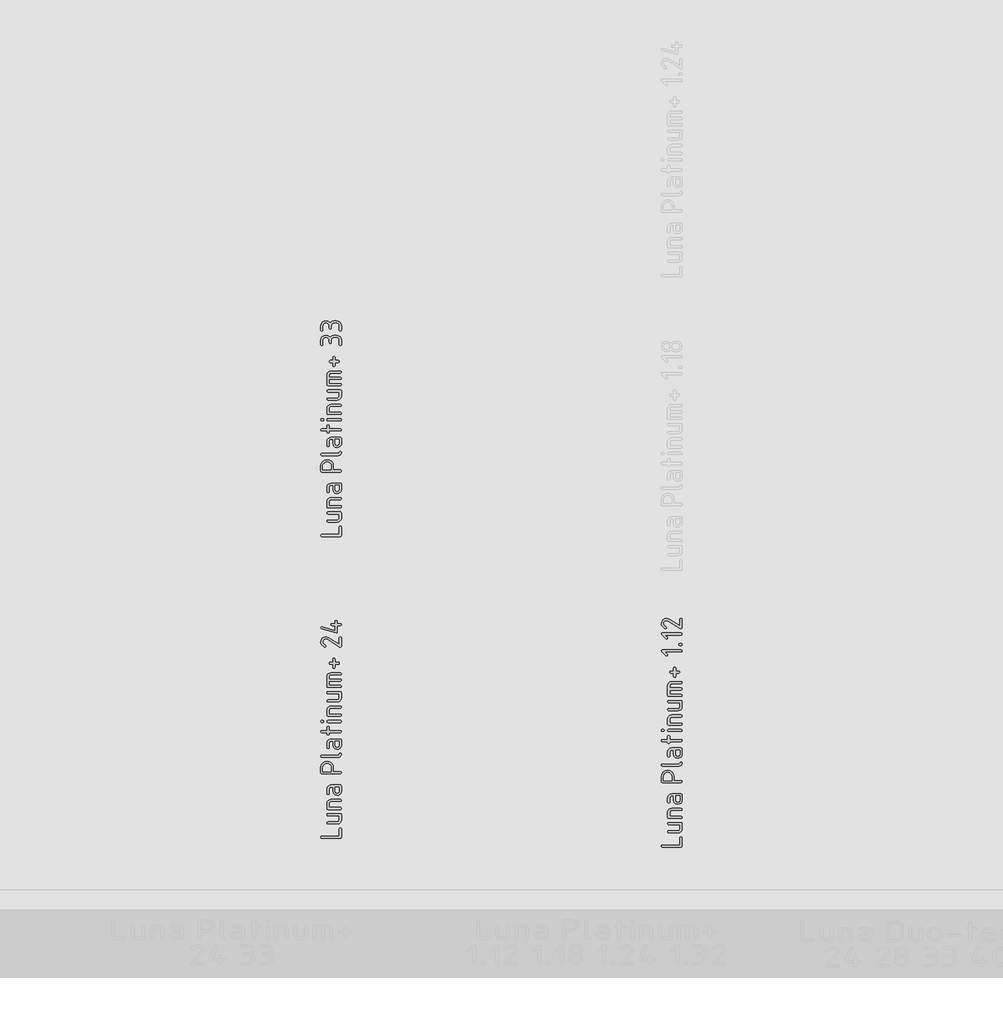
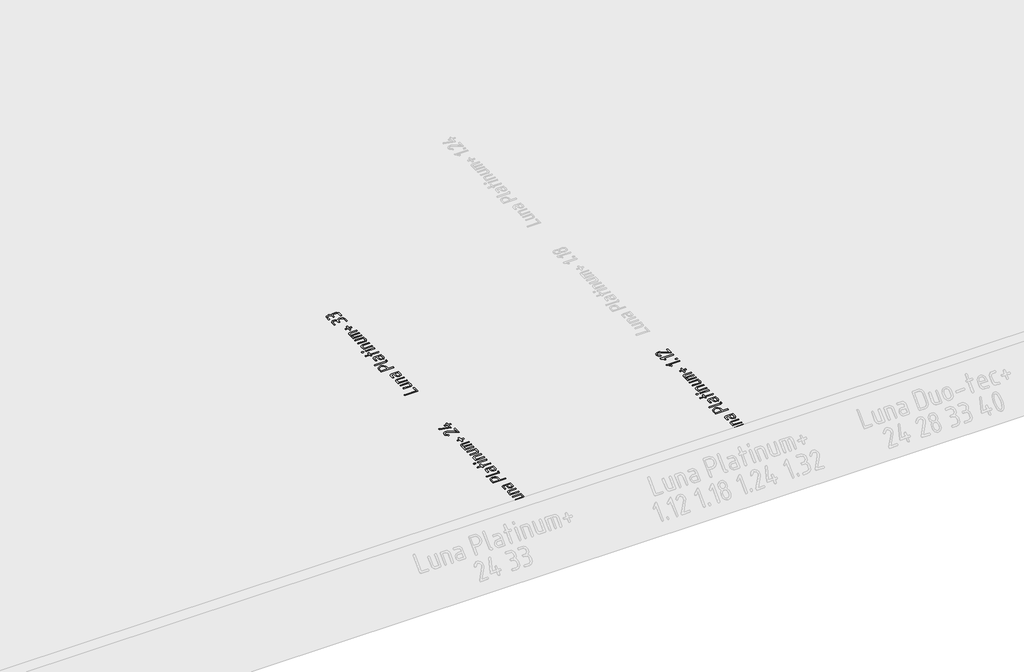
# One storey, part 19 of 37: 3 proxies.
"""IFC4 building model written with IfcOpenShell, lengths in millimetres."""

from ifc_helpers import new_model, si_unit, frame, origin, place, context, project, spatial, polyline, outline, extrude, element, save

model = new_model("IFC4")

# Units and contexts
model_context = context("Model", 3, world=origin())
ifc_project = project(units=[si_unit("LENGTHUNIT", "METRE", prefix="MILLI")], contexts=[model_context])

# Site, building, storey
site = spatial("IfcSite", under=ifc_project)
building = spatial("IfcBuilding", under=site)
storey = spatial("IfcBuildingStorey", under=building, Name="01_Стартовый вид_Площадка", Elevation=0.0)

# Proxies
placement = place(None, origin())
element("IfcBuildingElementProxy", 1, Name="150 мм", ObjectType="150 мм", at=placement, inside=storey, context=model_context, shape_type="SweptSolid", body=[
    extrude(outline(polyline([(15539.4355153, -4331.7183075), (15533.7723757, -4329.8006306), (15531.8846626, -4324.0475999), (15533.7623878, -4318.2945692), (15539.3955637, -4316.3768923), (15667.4004968, -4316.3768923), (15667.4004968, -4263.8804872), (15669.3181737, -4258.2473113), (15675.0712044, -4256.369586), (15680.8242351, -4258.2473113), (15682.741912, -4263.8804872), (15682.741912, -4324.0475999), (15680.8541988, -4329.8006306), (15675.1910592, -4331.7183075), (15539.4355153, -4331.7183075)])), frame((0.0, 0.0, -10.0), z_axis=(0.0, 0.0, 1.0), x_axis=(1.0, 0.0, 0.0)), (0.0, 0.0, 1.0), 10.0),
    extrude(outline(polyline([(15585.3798577, -4152.7351302), (15675.2709624, -4152.7351302), (15680.8741746, -4154.5928797), (15682.741912, -4160.1661282), (15682.741912, -4197.2412149), (15680.5745376, -4208.7372884), (15674.0724143, -4218.2957092), (15664.4141145, -4224.737905), (15652.7782104, -4226.8853037), (15585.3798577, -4226.8853037), (15579.7766455, -4224.9676268), (15577.9089081, -4219.2145961), (15579.7766455, -4213.4615654), (15585.3798577, -4211.5438885), (15652.4985492, -4211.5438885), (15662.9858448, -4207.269067), (15667.4004968, -4197.0414569), (15667.4004968, -4168.0765454), (15585.3798577, -4168.0765454), (15579.7766455, -4166.1588685), (15577.9089081, -4160.4058378), (15579.7766455, -4154.6528071), (15585.3798577, -4152.7351302)])), frame((0.0, 0.0, -10.0), z_axis=(0.0, 0.0, 1.0), x_axis=(1.0, 0.0, 0.0)), (0.0, 0.0, 1.0), 10.0),
    extrude(outline(polyline([(15675.2709624, -4122.0522998), (15585.3798577, -4122.0522998), (15579.7766455, -4120.1945503), (15577.9089081, -4114.6213018), (15577.9089081, -4077.5462151), (15580.0762826, -4066.0501416), (15586.5784058, -4056.4917208), (15596.2367056, -4050.049525), (15607.8726097, -4047.9021263), (15675.2709624, -4047.9021263), (15680.8741746, -4049.8198032), (15682.741912, -4055.5728339), (15680.8741746, -4061.3258646), (15675.2709624, -4063.2435415), (15608.1522709, -4063.2435415), (15597.5451206, -4067.418484), (15593.2503233, -4077.7459731), (15593.2503233, -4106.7108846), (15675.2709624, -4106.7108846), (15680.8741746, -4108.6285615), (15682.741912, -4114.3815922), (15680.8741746, -4120.1346229), (15675.2709624, -4122.0522998)])), frame((0.0, 0.0, -10.0), z_axis=(0.0, 0.0, 1.0), x_axis=(1.0, 0.0, 0.0)), (0.0, 0.0, 1.0), 10.0),
    extrude(outline(polyline([(15682.741912, -3988.4141909), (15680.5196041, -4000.0301192), (15673.8526805, -4009.7083948), (15663.9596651, -4016.2404817), (15652.0590816, -4018.417844), (15636.5978116, -4014.4226838), (15625.1816413, -4003.6657149), (15621.3762512, -3988.4141909), (15621.3762512, -3958.4105377), (15607.3132873, -3958.4105377), (15597.305411, -3962.7253107), (15593.2503233, -3973.3923885), (15593.2503233, -4003.3960416), (15591.3326464, -4009.0292175), (15585.5796157, -4010.9069428), (15579.826585, -4009.0292175), (15577.9089081, -4003.3960416), (15577.9089081, -3973.3923885), (15580.0762826, -3961.7115388), (15586.5784058, -3951.9184024), (15596.2367056, -3945.2814425), (15607.8726097, -3943.0691225), (15675.2709624, -3943.0691225), (15680.8741746, -3944.9867994), (15682.741912, -3950.7398301), (15682.741912, -3988.4141909)]), holes=[polyline([(15636.7176664, -3958.4105377), (15636.7176664, -3988.4141909), (15641.1922458, -3999.0213412), (15652.0590816, -4003.3960416), (15662.86599, -3998.9614138), (15667.4004968, -3988.4141909), (15667.4004968, -3958.4105377), (15636.7176664, -3958.4105377)])]), frame((0.0, 0.0, -10.0), z_axis=(0.0, 0.0, 1.0), x_axis=(1.0, 0.0, 0.0)), (0.0, 0.0, 1.0), 10.0),
    extrude(outline(polyline([(15531.8846626, -3853.7772919), (15531.8846626, -3816.5024471), (15535.2405971, -3799.248349), (15545.3084008, -3784.8008509), (15560.1703968, -3775.0177023), (15577.9089081, -3771.7566528), (15596.4464515, -3774.847908), (15611.1486411, -3784.1216736), (15620.7370256, -3798.33945), (15623.9331537, -3816.2627375), (15623.9331537, -3845.9068262), (15675.3908172, -3845.9068262), (15680.9041383, -3847.8245031), (15682.741912, -3853.5775338), (15680.8541988, -3859.3305645), (15675.1910592, -3861.2482414), (15539.4355153, -3861.2482414), (15533.7723757, -3859.380504), (15531.8846626, -3853.7772919)]), holes=[polyline([(15547.2260777, -3845.9068262), (15608.5917385, -3845.9068262), (15608.5917385, -3816.5024471), (15606.3694307, -3805.1112466), (15599.7025071, -3795.627735), (15589.8094916, -3789.2304848), (15577.9089081, -3787.098068), (15566.0083247, -3789.2304848), (15556.1153092, -3795.627735), (15549.4483856, -3805.1112466), (15547.2260777, -3816.5024471), (15547.2260777, -3845.9068262)])]), frame((0.0, 0.0, -10.0), z_axis=(0.0, 0.0, 1.0), x_axis=(1.0, 0.0, 0.0)), (0.0, 0.0, 1.0), 10.0),
    extrude(outline(polyline([(15539.4355153, -3741.0738224), (15533.7723757, -3739.1561455), (15531.8846626, -3733.4031148), (15533.7723757, -3727.6500841), (15539.4355153, -3725.7324072), (15660.1293052, -3725.7324072), (15664.9035217, -3723.8596759), (15667.6402064, -3718.2414818), (15670.3868791, -3712.6232878), (15675.1910592, -3710.7505564), (15680.8541988, -3712.6182938), (15682.741912, -3718.221506), (15681.2437269, -3727.4453321), (15676.7491717, -3734.7414935), (15669.5978349, -3739.4907402), (15660.1293052, -3741.0738224), (15539.4355153, -3741.0738224)])), frame((0.0, 0.0, -10.0), z_axis=(0.0, 0.0, 1.0), x_axis=(1.0, 0.0, 0.0)), (0.0, 0.0, 1.0), 10.0),
    extrude(outline(polyline([(15682.741912, -3653.459959), (15680.5196041, -3665.0758873), (15673.8526805, -3674.754163), (15663.9596651, -3681.2862499), (15652.0590816, -3683.4636122), (15636.5978116, -3679.468452), (15625.1816413, -3668.7114831), (15621.3762512, -3653.459959), (15621.3762512, -3623.4563059), (15607.3132873, -3623.4563059), (15597.305411, -3627.7710789), (15593.2503233, -3638.4381567), (15593.2503233, -3668.4418098), (15591.3326464, -3674.0749857), (15585.5796157, -3675.952711), (15579.826585, -3674.0749857), (15577.9089081, -3668.4418098), (15577.9089081, -3638.4381567), (15580.0762826, -3626.757307), (15586.5784058, -3616.9641705), (15596.2367056, -3610.3272107), (15607.8726097, -3608.1148907), (15675.2709624, -3608.1148907), (15680.8741746, -3610.0325676), (15682.741912, -3615.7855983), (15682.741912, -3653.459959)]), holes=[polyline([(15636.7176664, -3623.4563059), (15636.7176664, -3653.459959), (15641.1922458, -3664.0671094), (15652.0590816, -3668.4418098), (15662.86599, -3664.007182), (15667.4004968, -3653.459959), (15667.4004968, -3623.4563059), (15636.7176664, -3623.4563059)])]), frame((0.0, 0.0, -10.0), z_axis=(0.0, 0.0, 1.0), x_axis=(1.0, 0.0, 0.0)), (0.0, 0.0, 1.0), 10.0),
    extrude(outline(polyline([(15593.2503233, -3562.0906451), (15593.2503233, -3569.6015463), (15591.3326464, -3575.2347222), (15585.5796157, -3577.1124475), (15579.826585, -3575.2347222), (15577.9089081, -3569.6015463), (15577.9089081, -3562.0906451), (15539.5553702, -3562.0906451), (15533.8023395, -3560.1729682), (15531.8846626, -3554.4199375), (15533.8023395, -3548.6669068), (15539.5553702, -3546.7492299), (15577.9089081, -3546.7492299), (15577.9089081, -3524.2165263), (15579.826585, -3518.6133141), (15585.5796157, -3516.7455767), (15591.3326464, -3518.6133141), (15593.2503233, -3524.2165263), (15593.2503233, -3546.7492299), (15675.2709624, -3546.7492299), (15680.8741746, -3548.6669068), (15682.741912, -3554.4199375), (15680.8741746, -3560.1729682), (15675.2709624, -3562.0906451), (15593.2503233, -3562.0906451)])), frame((0.0, 0.0, -10.0), z_axis=(0.0, 0.0, 1.0), x_axis=(1.0, 0.0, 0.0)), (0.0, 0.0, 1.0), 10.0),
    extrude(outline(polyline([(15585.2200513, -3487.9404716), (15579.6168391, -3486.0227947), (15577.7491017, -3480.269764), (15579.6168391, -3474.5167333), (15585.2200513, -3472.5990564), (15675.2310108, -3472.5990564), (15680.8641867, -3474.5167333), (15682.741912, -3480.269764), (15680.8641867, -3486.0227947), (15675.2310108, -3487.9404716), (15585.2200513, -3487.9404716)])), frame((0.0, 0.0, -10.0), z_axis=(0.0, 0.0, 1.0), x_axis=(1.0, 0.0, 0.0)), (0.0, 0.0, 1.0), 10.0),
    extrude(outline(polyline([(15546.9064649, -3487.9404716), (15539.3955637, -3487.9404716), (15533.7623878, -3486.0227947), (15531.8846626, -3480.269764), (15533.7623878, -3474.5167333), (15539.3955637, -3472.5990564), (15546.9064649, -3472.5990564), (15552.5396408, -3474.5167333), (15554.4173661, -3480.269764), (15552.5396408, -3486.0227947), (15546.9064649, -3487.9404716)])), frame((0.0, 0.0, -10.0), z_axis=(0.0, 0.0, 1.0), x_axis=(1.0, 0.0, 0.0)), (0.0, 0.0, 1.0), 10.0),
    extrude(outline(polyline([(15675.2709624, -3441.916226), (15585.3798577, -3441.916226), (15579.7766455, -3440.0584766), (15577.9089081, -3434.4852281), (15577.9089081, -3397.4101413), (15580.0762826, -3385.9140678), (15586.5784058, -3376.355647), (15596.2367056, -3369.9134512), (15607.8726097, -3367.7660526), (15675.2709624, -3367.7660526), (15680.8741746, -3369.6837295), (15682.741912, -3375.4367602), (15680.8741746, -3381.1897909), (15675.2709624, -3383.1074678), (15608.1522709, -3383.1074678), (15597.5451206, -3387.2824102), (15593.2503233, -3397.6098993), (15593.2503233, -3426.5748108), (15675.2709624, -3426.5748108), (15680.8741746, -3428.4924877), (15682.741912, -3434.2455184), (15680.8741746, -3439.9985491), (15675.2709624, -3441.916226)])), frame((0.0, 0.0, -10.0), z_axis=(0.0, 0.0, 1.0), x_axis=(1.0, 0.0, 0.0)), (0.0, 0.0, 1.0), 10.0),
    extrude(outline(polyline([(15585.3798577, -3262.9330487), (15675.2709624, -3262.9330487), (15680.8741746, -3264.7907982), (15682.741912, -3270.3640467), (15682.741912, -3307.4391335), (15680.5745376, -3318.935207), (15674.0724143, -3328.4936278), (15664.4141145, -3334.9358236), (15652.7782104, -3337.0832222), (15585.3798577, -3337.0832222), (15579.7766455, -3335.1655453), (15577.9089081, -3329.4125146), (15579.7766455, -3323.6594839), (15585.3798577, -3321.741807), (15652.4985492, -3321.741807), (15662.9858448, -3317.4669856), (15667.4004968, -3307.2393754), (15667.4004968, -3278.2744639), (15585.3798577, -3278.2744639), (15579.7766455, -3276.356787), (15577.9089081, -3270.6037563), (15579.7766455, -3264.8507256), (15585.3798577, -3262.9330487)])), frame((0.0, 0.0, -10.0), z_axis=(0.0, 0.0, 1.0), x_axis=(1.0, 0.0, 0.0)), (0.0, 0.0, 1.0), 10.0),
    extrude(outline(polyline([(15577.9089081, -3224.5795107), (15577.9089081, -3155.5431424), (15580.0762826, -3143.6425589), (15586.5784058, -3133.7495434), (15596.2367056, -3127.0826198), (15607.8726097, -3124.860312), (15675.2709624, -3124.860312), (15680.8741746, -3126.7779889), (15682.741912, -3132.5310196), (15680.8741746, -3138.2840503), (15675.2709624, -3140.2017272), (15608.1522709, -3140.2017272), (15597.5451206, -3144.6163792), (15593.2503233, -3155.5431424), (15593.2503233, -3170.8845576), (15675.2709624, -3170.8845576), (15680.8741746, -3172.8022345), (15682.741912, -3178.5552652), (15680.8741746, -3184.3082959), (15675.2709624, -3186.2259728), (15593.2503233, -3186.2259728), (15593.2503233, -3216.9088031), (15675.2709624, -3216.9088031), (15680.8741746, -3218.82648), (15682.741912, -3224.5795107), (15680.8741746, -3230.3325414), (15675.2709624, -3232.2502183), (15585.3798577, -3232.2502183), (15579.7766455, -3230.3325414), (15577.9089081, -3224.5795107)])), frame((0.0, 0.0, -10.0), z_axis=(0.0, 0.0, 1.0), x_axis=(1.0, 0.0, 0.0)), (0.0, 0.0, 1.0), 10.0),
    extrude(outline(polyline([(15636.7176664, -3063.4946512), (15636.7176664, -3085.9874031), (15634.7999895, -3091.620579), (15629.0469588, -3093.4983043), (15623.2939281, -3091.620579), (15621.3762512, -3085.9874031), (15621.3762512, -3063.4946512), (15600.2818053, -3063.4946512), (15595.0081938, -3061.5769743), (15593.2503233, -3055.8239436), (15595.0081938, -3050.0709129), (15600.2818053, -3048.153236), (15621.3762512, -3048.153236), (15621.3762512, -3025.660484), (15623.2939281, -3020.0273081), (15629.0469588, -3018.1495828), (15634.7999895, -3020.0273081), (15636.7176664, -3025.660484), (15636.7176664, -3048.153236), (15659.7297892, -3048.153236), (15665.4828199, -3050.0709129), (15667.4004968, -3055.8239436), (15665.4828199, -3061.5769743), (15659.7297892, -3063.4946512), (15636.7176664, -3063.4946512)])), frame((0.0, 0.0, -10.0), z_axis=(0.0, 0.0, 1.0), x_axis=(1.0, 0.0, 0.0)), (0.0, 0.0, 1.0), 10.0),
    extrude(outline(polyline([(15557.6134943, -2907.5235967), (15574.912538, -2924.7826888), (15577.0699245, -2930.0163486), (15575.1921992, -2935.6495245), (15569.5590233, -2937.5272498), (15564.3253634, -2935.3299117), (15534.8410811, -2906.0054358), (15531.8846626, -2899.8528891), (15533.7723757, -2894.0998584), (15539.4355153, -2892.1821815), (15675.1910592, -2892.1821815), (15680.8541988, -2894.0998584), (15682.741912, -2899.8528891), (15680.8541988, -2905.6059198), (15675.1910592, -2907.5235967), (15557.6134943, -2907.5235967)])), frame((0.0, 0.0, -10.0), z_axis=(0.0, 0.0, 1.0), x_axis=(1.0, 0.0, 0.0)), (0.0, 0.0, 1.0), 10.0),
    extrude(outline(polyline([(15667.4004968, -2861.4993511), (15661.6474661, -2859.5816742), (15659.7297892, -2853.8286435), (15661.6474661, -2848.0756128), (15667.4004968, -2846.1579359), (15675.0712044, -2846.1579359), (15680.8242351, -2848.0756128), (15682.741912, -2853.8286435), (15680.8242351, -2859.5816742), (15675.0712044, -2861.4993511), (15667.4004968, -2861.4993511)])), frame((0.0, 0.0, -10.0), z_axis=(0.0, 0.0, 1.0), x_axis=(1.0, 0.0, 0.0)), (0.0, 0.0, 1.0), 10.0),
    extrude(outline(polyline([(15557.6134943, -2784.7922751), (15574.912538, -2802.0513672), (15577.0699245, -2807.2850271), (15575.1921992, -2812.9182029), (15569.5590233, -2814.7959282), (15564.3253634, -2812.5985901), (15534.8410811, -2783.2741142), (15531.8846626, -2777.1215675), (15533.7723757, -2771.3685368), (15539.4355153, -2769.4508599), (15675.1910592, -2769.4508599), (15680.8541988, -2771.3685368), (15682.741912, -2777.1215675), (15680.8541988, -2782.8745982), (15675.1910592, -2784.7922751), (15557.6134943, -2784.7922751)])), frame((0.0, 0.0, -10.0), z_axis=(0.0, 0.0, 1.0), x_axis=(1.0, 0.0, 0.0)), (0.0, 0.0, 1.0), 10.0),
    extrude(outline(polyline([(15531.8846626, -2701.6130396), (15534.6363291, -2687.1855173), (15542.8913289, -2675.0652), (15555.0515978, -2666.8401639), (15569.5190717, -2664.0984852), (15580.3159922, -2665.8064162), (15591.2127916, -2670.9302092), (15667.4004968, -2718.1929544), (15667.4004968, -2671.6093864), (15669.3181737, -2665.9762105), (15675.0712044, -2664.0984852), (15680.8242351, -2665.9762105), (15682.741912, -2671.6093864), (15682.741912, -2731.6166927), (15680.8641867, -2737.2498686), (15675.2310108, -2739.1275939), (15670.8762862, -2737.8491426), (15582.2636328, -2682.8757382), (15569.7987329, -2679.1202876), (15561.1342292, -2680.7682912), (15553.8380679, -2685.7123019), (15548.8790753, -2692.9834935), (15547.2260777, -2701.6130396), (15551.9403668, -2713.8482177), (15566.0832339, -2725.1445332), (15569.7188297, -2731.6166927), (15567.8411044, -2737.2498686), (15562.2079285, -2739.1275939), (15559.1316552, -2738.4084651), (15538.6964107, -2722.2380541), (15533.5875996, -2712.4823723), (15531.8846626, -2701.6130396)])), frame((0.0, 0.0, -10.0), z_axis=(0.0, 0.0, 1.0), x_axis=(1.0, 0.0, 0.0)), (0.0, 0.0, 1.0), 10.0),
])
element("IfcBuildingElementProxy", 2, Name="150 мм", ObjectType="150 мм", at=placement, inside=storey, context=model_context, shape_type="SweptSolid", body=[
    extrude(outline(polyline([(13054.7547885, -4266.8246711), (13049.0916489, -4264.9069942), (13047.2039357, -4259.1539635), (13049.081661, -4253.4009328), (13054.7148369, -4251.4832559), (13182.7197699, -4251.4832559), (13182.7197699, -4198.9868507), (13184.6374468, -4193.3536749), (13190.3904775, -4191.4759496), (13196.1435082, -4193.3536749), (13198.0611851, -4198.9868507), (13198.0611851, -4259.1539635), (13196.1734719, -4264.9069942), (13190.5103323, -4266.8246711), (13054.7547885, -4266.8246711)])), frame((0.0, 0.0, -10.0), z_axis=(0.0, 0.0, 1.0), x_axis=(1.0, 0.0, 0.0)), (0.0, 0.0, 1.0), 10.0),
    extrude(outline(polyline([(13100.6991309, -4087.8414938), (13190.5902355, -4087.8414938), (13196.1934477, -4089.6992433), (13198.0611851, -4095.2724918), (13198.0611851, -4132.3475785), (13195.8938107, -4143.843652), (13189.3916875, -4153.4020728), (13179.7333877, -4159.8442686), (13168.0974836, -4161.9916672), (13100.6991309, -4161.9916672), (13095.0959187, -4160.0739903), (13093.2281813, -4154.3209596), (13095.0959187, -4148.5679289), (13100.6991309, -4146.650252), (13167.8178224, -4146.650252), (13178.3051179, -4142.3754306), (13182.7197699, -4132.1478205), (13182.7197699, -4103.182909), (13100.6991309, -4103.182909), (13095.0959187, -4101.2652321), (13093.2281813, -4095.5122014), (13095.0959187, -4089.7591707), (13100.6991309, -4087.8414938)])), frame((0.0, 0.0, -10.0), z_axis=(0.0, 0.0, 1.0), x_axis=(1.0, 0.0, 0.0)), (0.0, 0.0, 1.0), 10.0),
    extrude(outline(polyline([(13190.5902355, -4057.1586634), (13100.6991309, -4057.1586634), (13095.0959187, -4055.3009139), (13093.2281813, -4049.7276654), (13093.2281813, -4012.6525787), (13095.3955557, -4001.1565052), (13101.8976789, -3991.5980844), (13111.5559787, -3985.1558885), (13123.1918828, -3983.0084899), (13190.5902355, -3983.0084899), (13196.1934477, -3984.9261668), (13198.0611851, -3990.6791975), (13196.1934477, -3996.4322282), (13190.5902355, -3998.3499051), (13123.4715441, -3998.3499051), (13112.8643937, -4002.5248475), (13108.5695965, -4012.8523367), (13108.5695965, -4041.8172482), (13190.5902355, -4041.8172482), (13196.1934477, -4043.7349251), (13198.0611851, -4049.4879558), (13196.1934477, -4055.2409865), (13190.5902355, -4057.1586634)])), frame((0.0, 0.0, -10.0), z_axis=(0.0, 0.0, 1.0), x_axis=(1.0, 0.0, 0.0)), (0.0, 0.0, 1.0), 10.0),
    extrude(outline(polyline([(13198.0611851, -3923.5205544), (13195.8388773, -3935.1364827), (13189.1719537, -3944.8147583), (13179.2789382, -3951.3468453), (13167.3783547, -3953.5242076), (13151.9170847, -3949.5290474), (13140.5009144, -3938.7720785), (13136.6955243, -3923.5205544), (13136.6955243, -3893.5169013), (13122.6325604, -3893.5169013), (13112.6246841, -3897.8316743), (13108.5695965, -3908.498752), (13108.5695965, -3938.5024052), (13106.6519196, -3944.1355811), (13100.8988889, -3946.0133064), (13095.1458582, -3944.1355811), (13093.2281813, -3938.5024052), (13093.2281813, -3908.498752), (13095.3955557, -3896.8179024), (13101.8976789, -3887.0247659), (13111.5559787, -3880.387806), (13123.1918828, -3878.1754861), (13190.5902355, -3878.1754861), (13196.1934477, -3880.093163), (13198.0611851, -3885.8461937), (13198.0611851, -3923.5205544)]), holes=[polyline([(13152.0369395, -3893.5169013), (13152.0369395, -3923.5205544), (13156.511519, -3934.1277048), (13167.3783547, -3938.5024052), (13178.1852631, -3934.0677774), (13182.7197699, -3923.5205544), (13182.7197699, -3893.5169013), (13152.0369395, -3893.5169013)])]), frame((0.0, 0.0, -10.0), z_axis=(0.0, 0.0, 1.0), x_axis=(1.0, 0.0, 0.0)), (0.0, 0.0, 1.0), 10.0),
    extrude(outline(polyline([(13047.2039357, -3788.8836554), (13047.2039357, -3751.6088107), (13050.5598703, -3734.3547125), (13060.627674, -3719.9072144), (13075.48967, -3710.1240659), (13093.2281813, -3706.8630164), (13111.7657246, -3709.9542716), (13126.4679142, -3719.2280372), (13136.0562987, -3733.4458136), (13139.2524269, -3751.3691011), (13139.2524269, -3781.0131898), (13190.7100903, -3781.0131898), (13196.2234114, -3782.9308667), (13198.0611851, -3788.6838974), (13196.1734719, -3794.4369281), (13190.5103323, -3796.354605), (13054.7547885, -3796.354605), (13049.0916489, -3794.4868676), (13047.2039357, -3788.8836554)]), holes=[polyline([(13062.5453509, -3781.0131898), (13123.9110117, -3781.0131898), (13123.9110117, -3751.6088107), (13121.6887038, -3740.2176102), (13115.0217802, -3730.7340986), (13105.1287647, -3724.3368483), (13093.2281813, -3722.2044316), (13081.3275978, -3724.3368483), (13071.4345823, -3730.7340986), (13064.7676587, -3740.2176102), (13062.5453509, -3751.6088107), (13062.5453509, -3781.0131898)])]), frame((0.0, 0.0, -10.0), z_axis=(0.0, 0.0, 1.0), x_axis=(1.0, 0.0, 0.0)), (0.0, 0.0, 1.0), 10.0),
    extrude(outline(polyline([(13054.7547885, -3676.180186), (13049.0916489, -3674.2625091), (13047.2039357, -3668.5094784), (13049.0916489, -3662.7564477), (13054.7547885, -3660.8387708), (13175.4485784, -3660.8387708), (13180.2227948, -3658.9660394), (13182.9594795, -3653.3478454), (13185.7061522, -3647.7296513), (13190.5103323, -3645.85692), (13196.1734719, -3647.7246574), (13198.0611851, -3653.3278696), (13196.563, -3662.5516957), (13192.0684448, -3669.847857), (13184.917108, -3674.5971037), (13175.4485784, -3676.180186), (13054.7547885, -3676.180186)])), frame((0.0, 0.0, -10.0), z_axis=(0.0, 0.0, 1.0), x_axis=(1.0, 0.0, 0.0)), (0.0, 0.0, 1.0), 10.0),
    extrude(outline(polyline([(13198.0611851, -3588.5663226), (13195.8388773, -3600.1822509), (13189.1719537, -3609.8605265), (13179.2789382, -3616.3926135), (13167.3783547, -3618.5699758), (13151.9170847, -3614.5748156), (13140.5009144, -3603.8178467), (13136.6955243, -3588.5663226), (13136.6955243, -3558.5626695), (13122.6325604, -3558.5626695), (13112.6246841, -3562.8774425), (13108.5695965, -3573.5445202), (13108.5695965, -3603.5481734), (13106.6519196, -3609.1813493), (13100.8988889, -3611.0590746), (13095.1458582, -3609.1813493), (13093.2281813, -3603.5481734), (13093.2281813, -3573.5445202), (13095.3955557, -3561.8636706), (13101.8976789, -3552.0705341), (13111.5559787, -3545.4335742), (13123.1918828, -3543.2212543), (13190.5902355, -3543.2212543), (13196.1934477, -3545.1389312), (13198.0611851, -3550.8919619), (13198.0611851, -3588.5663226)]), holes=[polyline([(13152.0369395, -3558.5626695), (13152.0369395, -3588.5663226), (13156.511519, -3599.173473), (13167.3783547, -3603.5481734), (13178.1852631, -3599.1135456), (13182.7197699, -3588.5663226), (13182.7197699, -3558.5626695), (13152.0369395, -3558.5626695)])]), frame((0.0, 0.0, -10.0), z_axis=(0.0, 0.0, 1.0), x_axis=(1.0, 0.0, 0.0)), (0.0, 0.0, 1.0), 10.0),
    extrude(outline(polyline([(13108.5695965, -3497.1970087), (13108.5695965, -3504.7079099), (13106.6519196, -3510.3410858), (13100.8988889, -3512.218811), (13095.1458582, -3510.3410858), (13093.2281813, -3504.7079099), (13093.2281813, -3497.1970087), (13054.8746433, -3497.1970087), (13049.1216126, -3495.2793318), (13047.2039357, -3489.5263011), (13049.1216126, -3483.7732704), (13054.8746433, -3481.8555935), (13093.2281813, -3481.8555935), (13093.2281813, -3459.3228899), (13095.1458582, -3453.7196777), (13100.8988889, -3451.8519403), (13106.6519196, -3453.7196777), (13108.5695965, -3459.3228899), (13108.5695965, -3481.8555935), (13190.5902355, -3481.8555935), (13196.1934477, -3483.7732704), (13198.0611851, -3489.5263011), (13196.1934477, -3495.2793318), (13190.5902355, -3497.1970087), (13108.5695965, -3497.1970087)])), frame((0.0, 0.0, -10.0), z_axis=(0.0, 0.0, 1.0), x_axis=(1.0, 0.0, 0.0)), (0.0, 0.0, 1.0), 10.0),
    extrude(outline(polyline([(13100.5393245, -3423.0468352), (13094.9361123, -3421.1291583), (13093.0683749, -3415.3761276), (13094.9361123, -3409.6230969), (13100.5393245, -3407.70542), (13190.5502839, -3407.70542), (13196.1834598, -3409.6230969), (13198.0611851, -3415.3761276), (13196.1834598, -3421.1291583), (13190.5502839, -3423.0468352), (13100.5393245, -3423.0468352)])), frame((0.0, 0.0, -10.0), z_axis=(0.0, 0.0, 1.0), x_axis=(1.0, 0.0, 0.0)), (0.0, 0.0, 1.0), 10.0),
    extrude(outline(polyline([(13062.2257381, -3423.0468352), (13054.7148369, -3423.0468352), (13049.081661, -3421.1291583), (13047.2039357, -3415.3761276), (13049.081661, -3409.6230969), (13054.7148369, -3407.70542), (13062.2257381, -3407.70542), (13067.858914, -3409.6230969), (13069.7366393, -3415.3761276), (13067.858914, -3421.1291583), (13062.2257381, -3423.0468352)])), frame((0.0, 0.0, -10.0), z_axis=(0.0, 0.0, 1.0), x_axis=(1.0, 0.0, 0.0)), (0.0, 0.0, 1.0), 10.0),
    extrude(outline(polyline([(13190.5902355, -3377.0225896), (13100.6991309, -3377.0225896), (13095.0959187, -3375.1648401), (13093.2281813, -3369.5915916), (13093.2281813, -3332.5165049), (13095.3955557, -3321.0204314), (13101.8976789, -3311.4620106), (13111.5559787, -3305.0198148), (13123.1918828, -3302.8724162), (13190.5902355, -3302.8724162), (13196.1934477, -3304.7900931), (13198.0611851, -3310.5431238), (13196.1934477, -3316.2961545), (13190.5902355, -3318.2138314), (13123.4715441, -3318.2138314), (13112.8643937, -3322.3887738), (13108.5695965, -3332.7162629), (13108.5695965, -3361.6811744), (13190.5902355, -3361.6811744), (13196.1934477, -3363.5988513), (13198.0611851, -3369.351882), (13196.1934477, -3375.1049127), (13190.5902355, -3377.0225896)])), frame((0.0, 0.0, -10.0), z_axis=(0.0, 0.0, 1.0), x_axis=(1.0, 0.0, 0.0)), (0.0, 0.0, 1.0), 10.0),
    extrude(outline(polyline([(13100.6991309, -3198.0394123), (13190.5902355, -3198.0394123), (13196.1934477, -3199.8971618), (13198.0611851, -3205.4704103), (13198.0611851, -3242.545497), (13195.8938107, -3254.0415705), (13189.3916875, -3263.5999913), (13179.7333877, -3270.0421872), (13168.0974836, -3272.1895858), (13100.6991309, -3272.1895858), (13095.0959187, -3270.2719089), (13093.2281813, -3264.5188782), (13095.0959187, -3258.7658475), (13100.6991309, -3256.8481706), (13167.8178224, -3256.8481706), (13178.3051179, -3252.5733492), (13182.7197699, -3242.345739), (13182.7197699, -3213.3808275), (13100.6991309, -3213.3808275), (13095.0959187, -3211.4631506), (13093.2281813, -3205.7101199), (13095.0959187, -3199.9570892), (13100.6991309, -3198.0394123)])), frame((0.0, 0.0, -10.0), z_axis=(0.0, 0.0, 1.0), x_axis=(1.0, 0.0, 0.0)), (0.0, 0.0, 1.0), 10.0),
    extrude(outline(polyline([(13093.2281813, -3159.6858743), (13093.2281813, -3090.6495059), (13095.3955557, -3078.7489225), (13101.8976789, -3068.855907), (13111.5559787, -3062.1889834), (13123.1918828, -3059.9666755), (13190.5902355, -3059.9666755), (13196.1934477, -3061.8843524), (13198.0611851, -3067.6373831), (13196.1934477, -3073.3904138), (13190.5902355, -3075.3080907), (13123.4715441, -3075.3080907), (13112.8643937, -3079.7227428), (13108.5695965, -3090.6495059), (13108.5695965, -3105.9909211), (13190.5902355, -3105.9909211), (13196.1934477, -3107.908598), (13198.0611851, -3113.6616287), (13196.1934477, -3119.4146594), (13190.5902355, -3121.3323363), (13108.5695965, -3121.3323363), (13108.5695965, -3152.0151667), (13190.5902355, -3152.0151667), (13196.1934477, -3153.9328436), (13198.0611851, -3159.6858743), (13196.1934477, -3165.438905), (13190.5902355, -3167.3565819), (13100.6991309, -3167.3565819), (13095.0959187, -3165.438905), (13093.2281813, -3159.6858743)])), frame((0.0, 0.0, -10.0), z_axis=(0.0, 0.0, 1.0), x_axis=(1.0, 0.0, 0.0)), (0.0, 0.0, 1.0), 10.0),
    extrude(outline(polyline([(13152.0369395, -2998.6010147), (13152.0369395, -3021.0937667), (13150.1192626, -3026.7269426), (13144.3662319, -3028.6046679), (13138.6132012, -3026.7269426), (13136.6955243, -3021.0937667), (13136.6955243, -2998.6010147), (13115.6010784, -2998.6010147), (13110.327467, -2996.6833378), (13108.5695965, -2990.9303071), (13110.327467, -2985.1772764), (13115.6010784, -2983.2595995), (13136.6955243, -2983.2595995), (13136.6955243, -2960.7668476), (13138.6132012, -2955.1336717), (13144.3662319, -2953.2559464), (13150.1192626, -2955.1336717), (13152.0369395, -2960.7668476), (13152.0369395, -2983.2595995), (13175.0490623, -2983.2595995), (13180.802093, -2985.1772764), (13182.7197699, -2990.9303071), (13180.802093, -2996.6833378), (13175.0490623, -2998.6010147), (13152.0369395, -2998.6010147)])), frame((0.0, 0.0, -10.0), z_axis=(0.0, 0.0, 1.0), x_axis=(1.0, 0.0, 0.0)), (0.0, 0.0, 1.0), 10.0),
    extrude(outline(polyline([(13047.2039357, -2836.1578007), (13049.9556023, -2821.7302784), (13058.2106021, -2809.6099611), (13070.3708709, -2801.384925), (13084.8383448, -2798.6432464), (13095.6352653, -2800.3511773), (13106.5320648, -2805.4749703), (13182.7197699, -2852.7377156), (13182.7197699, -2806.1541475), (13184.6374468, -2800.5209717), (13190.3904775, -2798.6432464), (13196.1435082, -2800.5209717), (13198.0611851, -2806.1541475), (13198.0611851, -2866.1614539), (13196.1834598, -2871.7946298), (13190.5502839, -2873.6723551), (13186.1955593, -2872.3939038), (13097.5829059, -2817.4204993), (13085.1180061, -2813.6650487), (13076.4535024, -2815.3130523), (13069.157341, -2820.2570631), (13064.1983484, -2827.5282547), (13062.5453509, -2836.1578007), (13067.2596399, -2848.3929788), (13081.4025071, -2859.6892943), (13085.0381029, -2866.1614539), (13083.1603776, -2871.7946298), (13077.5272017, -2873.6723551), (13074.4509283, -2872.9532262), (13054.0156838, -2856.7828153), (13048.9068727, -2847.0271334), (13047.2039357, -2836.1578007)])), frame((0.0, 0.0, -10.0), z_axis=(0.0, 0.0, 1.0), x_axis=(1.0, 0.0, 0.0)), (0.0, 0.0, 1.0), 10.0),
    extrude(outline(polyline([(13159.8674535, -2769.8780929), (13157.8299218, -2769.6383832), (13052.6773052, -2739.6347301), (13048.5722781, -2737.0179001), (13047.2039357, -2732.3635385), (13049.0716731, -2726.7303626), (13054.6748853, -2724.8526373), (13056.8322718, -2725.2122017), (13152.0369395, -2752.4591944), (13152.0369395, -2717.3417361), (13129.504236, -2717.3417361), (13123.9010238, -2715.4240592), (13122.0332864, -2709.6710285), (13123.9010238, -2703.9179978), (13129.504236, -2702.0003209), (13152.0369395, -2702.0003209), (13152.0369395, -2686.9785185), (13153.9546164, -2681.3753064), (13159.7076471, -2679.507569), (13165.4606778, -2681.3753064), (13167.3783547, -2686.9785185), (13167.3783547, -2702.0003209), (13190.3904775, -2702.0003209), (13196.1435082, -2703.9179978), (13198.0611851, -2709.6710285), (13196.1435082, -2715.4240592), (13190.3904775, -2717.3417361), (13167.3783547, -2717.3417361), (13167.3783547, -2762.3671917), (13165.5006294, -2768.0003676), (13159.8674535, -2769.8780929)])), frame((0.0, 0.0, -10.0), z_axis=(0.0, 0.0, 1.0), x_axis=(1.0, 0.0, 0.0)), (0.0, 0.0, 1.0), 10.0),
])
element("IfcBuildingElementProxy", 3, Name="150 мм", ObjectType="150 мм", at=placement, inside=storey, context=model_context, shape_type="SweptSolid", body=[
    extrude(outline(polyline([(13054.7547885, -2066.8246711), (13049.0916489, -2064.9069942), (13047.2039357, -2059.1539635), (13049.081661, -2053.4009328), (13054.7148369, -2051.4832559), (13182.7197699, -2051.4832559), (13182.7197699, -1998.9868507), (13184.6374468, -1993.3536749), (13190.3904775, -1991.4759496), (13196.1435082, -1993.3536749), (13198.0611851, -1998.9868507), (13198.0611851, -2059.1539635), (13196.1734719, -2064.9069942), (13190.5103323, -2066.8246711), (13054.7547885, -2066.8246711)])), frame((0.0, 0.0, -10.0), z_axis=(0.0, 0.0, 1.0), x_axis=(1.0, 0.0, 0.0)), (0.0, 0.0, 1.0), 10.0),
    extrude(outline(polyline([(13100.6991309, -1887.8414938), (13190.5902355, -1887.8414938), (13196.1934477, -1889.6992433), (13198.0611851, -1895.2724918), (13198.0611851, -1932.3475785), (13195.8938107, -1943.843652), (13189.3916875, -1953.4020728), (13179.7333877, -1959.8442686), (13168.0974836, -1961.9916672), (13100.6991309, -1961.9916672), (13095.0959187, -1960.0739903), (13093.2281813, -1954.3209596), (13095.0959187, -1948.5679289), (13100.6991309, -1946.650252), (13167.8178224, -1946.650252), (13178.3051179, -1942.3754306), (13182.7197699, -1932.1478205), (13182.7197699, -1903.182909), (13100.6991309, -1903.182909), (13095.0959187, -1901.2652321), (13093.2281813, -1895.5122014), (13095.0959187, -1889.7591707), (13100.6991309, -1887.8414938)])), frame((0.0, 0.0, -10.0), z_axis=(0.0, 0.0, 1.0), x_axis=(1.0, 0.0, 0.0)), (0.0, 0.0, 1.0), 10.0),
    extrude(outline(polyline([(13190.5902355, -1857.1586634), (13100.6991309, -1857.1586634), (13095.0959187, -1855.3009139), (13093.2281813, -1849.7276654), (13093.2281813, -1812.6525787), (13095.3955557, -1801.1565052), (13101.8976789, -1791.5980844), (13111.5559787, -1785.1558885), (13123.1918828, -1783.0084899), (13190.5902355, -1783.0084899), (13196.1934477, -1784.9261668), (13198.0611851, -1790.6791975), (13196.1934477, -1796.4322282), (13190.5902355, -1798.3499051), (13123.4715441, -1798.3499051), (13112.8643937, -1802.5248475), (13108.5695965, -1812.8523367), (13108.5695965, -1841.8172482), (13190.5902355, -1841.8172482), (13196.1934477, -1843.7349251), (13198.0611851, -1849.4879558), (13196.1934477, -1855.2409865), (13190.5902355, -1857.1586634)])), frame((0.0, 0.0, -10.0), z_axis=(0.0, 0.0, 1.0), x_axis=(1.0, 0.0, 0.0)), (0.0, 0.0, 1.0), 10.0),
    extrude(outline(polyline([(13198.0611851, -1723.5205544), (13195.8388773, -1735.1364827), (13189.1719537, -1744.8147583), (13179.2789382, -1751.3468453), (13167.3783547, -1753.5242076), (13151.9170847, -1749.5290474), (13140.5009144, -1738.7720785), (13136.6955243, -1723.5205544), (13136.6955243, -1693.5169013), (13122.6325604, -1693.5169013), (13112.6246841, -1697.8316743), (13108.5695965, -1708.498752), (13108.5695965, -1738.5024052), (13106.6519196, -1744.1355811), (13100.8988889, -1746.0133064), (13095.1458582, -1744.1355811), (13093.2281813, -1738.5024052), (13093.2281813, -1708.498752), (13095.3955557, -1696.8179024), (13101.8976789, -1687.0247659), (13111.5559787, -1680.387806), (13123.1918828, -1678.1754861), (13190.5902355, -1678.1754861), (13196.1934477, -1680.093163), (13198.0611851, -1685.8461937), (13198.0611851, -1723.5205544)]), holes=[polyline([(13152.0369395, -1693.5169013), (13152.0369395, -1723.5205544), (13156.511519, -1734.1277048), (13167.3783547, -1738.5024052), (13178.1852631, -1734.0677774), (13182.7197699, -1723.5205544), (13182.7197699, -1693.5169013), (13152.0369395, -1693.5169013)])]), frame((0.0, 0.0, -10.0), z_axis=(0.0, 0.0, 1.0), x_axis=(1.0, 0.0, 0.0)), (0.0, 0.0, 1.0), 10.0),
    extrude(outline(polyline([(13047.2039357, -1588.8836554), (13047.2039357, -1551.6088107), (13050.5598703, -1534.3547125), (13060.627674, -1519.9072144), (13075.48967, -1510.1240659), (13093.2281813, -1506.8630164), (13111.7657246, -1509.9542716), (13126.4679142, -1519.2280372), (13136.0562987, -1533.4458136), (13139.2524269, -1551.3691011), (13139.2524269, -1581.0131898), (13190.7100903, -1581.0131898), (13196.2234114, -1582.9308667), (13198.0611851, -1588.6838974), (13196.1734719, -1594.4369281), (13190.5103323, -1596.354605), (13054.7547885, -1596.354605), (13049.0916489, -1594.4868676), (13047.2039357, -1588.8836554)]), holes=[polyline([(13062.5453509, -1581.0131898), (13123.9110117, -1581.0131898), (13123.9110117, -1551.6088107), (13121.6887038, -1540.2176102), (13115.0217802, -1530.7340986), (13105.1287647, -1524.3368483), (13093.2281813, -1522.2044316), (13081.3275978, -1524.3368483), (13071.4345823, -1530.7340986), (13064.7676587, -1540.2176102), (13062.5453509, -1551.6088107), (13062.5453509, -1581.0131898)])]), frame((0.0, 0.0, -10.0), z_axis=(0.0, 0.0, 1.0), x_axis=(1.0, 0.0, 0.0)), (0.0, 0.0, 1.0), 10.0),
    extrude(outline(polyline([(13054.7547885, -1476.180186), (13049.0916489, -1474.2625091), (13047.2039357, -1468.5094784), (13049.0916489, -1462.7564477), (13054.7547885, -1460.8387708), (13175.4485784, -1460.8387708), (13180.2227948, -1458.9660394), (13182.9594795, -1453.3478454), (13185.7061522, -1447.7296513), (13190.5103323, -1445.85692), (13196.1734719, -1447.7246574), (13198.0611851, -1453.3278696), (13196.563, -1462.5516957), (13192.0684448, -1469.847857), (13184.917108, -1474.5971037), (13175.4485784, -1476.180186), (13054.7547885, -1476.180186)])), frame((0.0, 0.0, -10.0), z_axis=(0.0, 0.0, 1.0), x_axis=(1.0, 0.0, 0.0)), (0.0, 0.0, 1.0), 10.0),
    extrude(outline(polyline([(13198.0611851, -1388.5663226), (13195.8388773, -1400.1822509), (13189.1719537, -1409.8605265), (13179.2789382, -1416.3926135), (13167.3783547, -1418.5699758), (13151.9170847, -1414.5748156), (13140.5009144, -1403.8178467), (13136.6955243, -1388.5663226), (13136.6955243, -1358.5626695), (13122.6325604, -1358.5626695), (13112.6246841, -1362.8774425), (13108.5695965, -1373.5445202), (13108.5695965, -1403.5481734), (13106.6519196, -1409.1813493), (13100.8988889, -1411.0590746), (13095.1458582, -1409.1813493), (13093.2281813, -1403.5481734), (13093.2281813, -1373.5445202), (13095.3955557, -1361.8636706), (13101.8976789, -1352.0705341), (13111.5559787, -1345.4335742), (13123.1918828, -1343.2212543), (13190.5902355, -1343.2212543), (13196.1934477, -1345.1389312), (13198.0611851, -1350.8919619), (13198.0611851, -1388.5663226)]), holes=[polyline([(13152.0369395, -1358.5626695), (13152.0369395, -1388.5663226), (13156.511519, -1399.173473), (13167.3783547, -1403.5481734), (13178.1852631, -1399.1135456), (13182.7197699, -1388.5663226), (13182.7197699, -1358.5626695), (13152.0369395, -1358.5626695)])]), frame((0.0, 0.0, -10.0), z_axis=(0.0, 0.0, 1.0), x_axis=(1.0, 0.0, 0.0)), (0.0, 0.0, 1.0), 10.0),
    extrude(outline(polyline([(13108.5695965, -1297.1970087), (13108.5695965, -1304.7079099), (13106.6519196, -1310.3410858), (13100.8988889, -1312.218811), (13095.1458582, -1310.3410858), (13093.2281813, -1304.7079099), (13093.2281813, -1297.1970087), (13054.8746433, -1297.1970087), (13049.1216126, -1295.2793318), (13047.2039357, -1289.5263011), (13049.1216126, -1283.7732704), (13054.8746433, -1281.8555935), (13093.2281813, -1281.8555935), (13093.2281813, -1259.3228899), (13095.1458582, -1253.7196777), (13100.8988889, -1251.8519403), (13106.6519196, -1253.7196777), (13108.5695965, -1259.3228899), (13108.5695965, -1281.8555935), (13190.5902355, -1281.8555935), (13196.1934477, -1283.7732704), (13198.0611851, -1289.5263011), (13196.1934477, -1295.2793318), (13190.5902355, -1297.1970087), (13108.5695965, -1297.1970087)])), frame((0.0, 0.0, -10.0), z_axis=(0.0, 0.0, 1.0), x_axis=(1.0, 0.0, 0.0)), (0.0, 0.0, 1.0), 10.0),
    extrude(outline(polyline([(13100.5393245, -1223.0468352), (13094.9361123, -1221.1291583), (13093.0683749, -1215.3761276), (13094.9361123, -1209.6230969), (13100.5393245, -1207.70542), (13190.5502839, -1207.70542), (13196.1834598, -1209.6230969), (13198.0611851, -1215.3761276), (13196.1834598, -1221.1291583), (13190.5502839, -1223.0468352), (13100.5393245, -1223.0468352)])), frame((0.0, 0.0, -10.0), z_axis=(0.0, 0.0, 1.0), x_axis=(1.0, 0.0, 0.0)), (0.0, 0.0, 1.0), 10.0),
    extrude(outline(polyline([(13062.2257381, -1223.0468352), (13054.7148369, -1223.0468352), (13049.081661, -1221.1291583), (13047.2039357, -1215.3761276), (13049.081661, -1209.6230969), (13054.7148369, -1207.70542), (13062.2257381, -1207.70542), (13067.858914, -1209.6230969), (13069.7366393, -1215.3761276), (13067.858914, -1221.1291583), (13062.2257381, -1223.0468352)])), frame((0.0, 0.0, -10.0), z_axis=(0.0, 0.0, 1.0), x_axis=(1.0, 0.0, 0.0)), (0.0, 0.0, 1.0), 10.0),
    extrude(outline(polyline([(13190.5902355, -1177.0225896), (13100.6991309, -1177.0225896), (13095.0959187, -1175.1648401), (13093.2281813, -1169.5915916), (13093.2281813, -1132.5165049), (13095.3955557, -1121.0204314), (13101.8976789, -1111.4620106), (13111.5559787, -1105.0198148), (13123.1918828, -1102.8724162), (13190.5902355, -1102.8724162), (13196.1934477, -1104.7900931), (13198.0611851, -1110.5431238), (13196.1934477, -1116.2961545), (13190.5902355, -1118.2138314), (13123.4715441, -1118.2138314), (13112.8643937, -1122.3887738), (13108.5695965, -1132.7162629), (13108.5695965, -1161.6811744), (13190.5902355, -1161.6811744), (13196.1934477, -1163.5988513), (13198.0611851, -1169.351882), (13196.1934477, -1175.1049127), (13190.5902355, -1177.0225896)])), frame((0.0, 0.0, -10.0), z_axis=(0.0, 0.0, 1.0), x_axis=(1.0, 0.0, 0.0)), (0.0, 0.0, 1.0), 10.0),
    extrude(outline(polyline([(13100.6991309, -998.0394123), (13190.5902355, -998.0394123), (13196.1934477, -999.8971618), (13198.0611851, -1005.4704103), (13198.0611851, -1042.545497), (13195.8938107, -1054.0415705), (13189.3916875, -1063.5999913), (13179.7333877, -1070.0421872), (13168.0974836, -1072.1895858), (13100.6991309, -1072.1895858), (13095.0959187, -1070.2719089), (13093.2281813, -1064.5188782), (13095.0959187, -1058.7658475), (13100.6991309, -1056.8481706), (13167.8178224, -1056.8481706), (13178.3051179, -1052.5733492), (13182.7197699, -1042.345739), (13182.7197699, -1013.3808275), (13100.6991309, -1013.3808275), (13095.0959187, -1011.4631506), (13093.2281813, -1005.7101199), (13095.0959187, -999.9570892), (13100.6991309, -998.0394123)])), frame((0.0, 0.0, -10.0), z_axis=(0.0, 0.0, 1.0), x_axis=(1.0, 0.0, 0.0)), (0.0, 0.0, 1.0), 10.0),
    extrude(outline(polyline([(13093.2281813, -959.6858743), (13093.2281813, -890.6495059), (13095.3955557, -878.7489225), (13101.8976789, -868.855907), (13111.5559787, -862.1889834), (13123.1918828, -859.9666755), (13190.5902355, -859.9666755), (13196.1934477, -861.8843524), (13198.0611851, -867.6373831), (13196.1934477, -873.3904138), (13190.5902355, -875.3080907), (13123.4715441, -875.3080907), (13112.8643937, -879.7227428), (13108.5695965, -890.6495059), (13108.5695965, -905.9909211), (13190.5902355, -905.9909211), (13196.1934477, -907.908598), (13198.0611851, -913.6616287), (13196.1934477, -919.4146594), (13190.5902355, -921.3323363), (13108.5695965, -921.3323363), (13108.5695965, -952.0151667), (13190.5902355, -952.0151667), (13196.1934477, -953.9328436), (13198.0611851, -959.6858743), (13196.1934477, -965.438905), (13190.5902355, -967.3565819), (13100.6991309, -967.3565819), (13095.0959187, -965.438905), (13093.2281813, -959.6858743)])), frame((0.0, 0.0, -10.0), z_axis=(0.0, 0.0, 1.0), x_axis=(1.0, 0.0, 0.0)), (0.0, 0.0, 1.0), 10.0),
    extrude(outline(polyline([(13152.0369395, -798.6010147), (13152.0369395, -821.0937667), (13150.1192626, -826.7269426), (13144.3662319, -828.6046679), (13138.6132012, -826.7269426), (13136.6955243, -821.0937667), (13136.6955243, -798.6010147), (13115.6010784, -798.6010147), (13110.327467, -796.6833378), (13108.5695965, -790.9303071), (13110.327467, -785.1772764), (13115.6010784, -783.2595995), (13136.6955243, -783.2595995), (13136.6955243, -760.7668476), (13138.6132012, -755.1336717), (13144.3662319, -753.2559464), (13150.1192626, -755.1336717), (13152.0369395, -760.7668476), (13152.0369395, -783.2595995), (13175.0490623, -783.2595995), (13180.802093, -785.1772764), (13182.7197699, -790.9303071), (13180.802093, -796.6833378), (13175.0490623, -798.6010147), (13152.0369395, -798.6010147)])), frame((0.0, 0.0, -10.0), z_axis=(0.0, 0.0, 1.0), x_axis=(1.0, 0.0, 0.0)), (0.0, 0.0, 1.0), 10.0),
    extrude(outline(polyline([(13123.9110117, -636.9967843), (13123.9110117, -651.9786351), (13121.9933348, -657.611811), (13116.2403041, -659.4895363), (13110.4872734, -657.611811), (13108.5695965, -651.9786351), (13108.5695965, -636.9967843), (13106.8966231, -628.292329), (13101.8777031, -621.0361193), (13094.4516991, -616.1370541), (13085.5574737, -614.5040324), (13076.7131878, -616.152036), (13069.2771958, -621.0960467), (13064.2283121, -628.3672383), (13062.5453509, -636.9967843), (13062.5453509, -667.0004375), (13060.627674, -672.6336134), (13054.8746433, -674.5113387), (13049.1216126, -672.6336134), (13047.2039357, -667.0004375), (13047.2039357, -636.9967843), (13050.0205236, -622.5293104), (13058.4702875, -610.2891384), (13070.8752599, -601.9442475), (13085.5574737, -599.1626172), (13102.7566384, -602.9180678), (13116.2403041, -614.1844196), (13129.3144659, -602.9180678), (13146.0042476, -599.1626172), (13160.8662436, -599.1626172), (13175.178905, -601.9592293), (13187.1943494, -610.3490658), (13195.3444762, -622.6042197), (13198.0611851, -636.9967843), (13198.0611851, -667.0004375), (13196.1435082, -672.6336134), (13190.3904775, -674.5113387), (13184.6374468, -672.6336134), (13182.7197699, -667.0004375), (13182.7197699, -636.9967843), (13181.1167119, -628.292329), (13176.3075378, -621.0361193), (13169.1911587, -616.1370541), (13160.6664856, -614.5040324), (13145.964296, -614.5040324), (13137.4895624, -616.152036), (13130.3631954, -621.0960467), (13125.5240576, -628.3672383), (13123.9110117, -636.9967843)])), frame((0.0, 0.0, -10.0), z_axis=(0.0, 0.0, 1.0), x_axis=(1.0, 0.0, 0.0)), (0.0, 0.0, 1.0), 10.0),
    extrude(outline(polyline([(13123.9110117, -532.1637805), (13123.9110117, -547.1456313), (13121.9933348, -552.7788072), (13116.2403041, -554.6565325), (13110.4872734, -552.7788072), (13108.5695965, -547.1456313), (13108.5695965, -532.1637805), (13106.8966231, -523.4593252), (13101.8777031, -516.2031155), (13094.4516991, -511.3040503), (13085.5574737, -509.6710285), (13076.7131878, -511.3190321), (13069.2771958, -516.2630429), (13064.2283121, -523.5342344), (13062.5453509, -532.1637805), (13062.5453509, -562.1674337), (13060.627674, -567.8006095), (13054.8746433, -569.6783348), (13049.1216126, -567.8006095), (13047.2039357, -562.1674337), (13047.2039357, -532.1637805), (13050.0205236, -517.6963066), (13058.4702875, -505.4561345), (13070.8752599, -497.1112436), (13085.5574737, -494.3296133), (13102.7566384, -498.0850639), (13116.2403041, -509.3514157), (13129.3144659, -498.0850639), (13146.0042476, -494.3296133), (13160.8662436, -494.3296133), (13175.178905, -497.1262255), (13187.1943494, -505.5160619), (13195.3444762, -517.7712158), (13198.0611851, -532.1637805), (13198.0611851, -562.1674337), (13196.1435082, -567.8006095), (13190.3904775, -569.6783348), (13184.6374468, -567.8006095), (13182.7197699, -562.1674337), (13182.7197699, -532.1637805), (13181.1167119, -523.4593252), (13176.3075378, -516.2031155), (13169.1911587, -511.3040503), (13160.6664856, -509.6710285), (13145.964296, -509.6710285), (13137.4895624, -511.3190321), (13130.3631954, -516.2630429), (13125.5240576, -523.5342344), (13123.9110117, -532.1637805)])), frame((0.0, 0.0, -10.0), z_axis=(0.0, 0.0, 1.0), x_axis=(1.0, 0.0, 0.0)), (0.0, 0.0, 1.0), 10.0),
])

save(model, "model.ifc")
